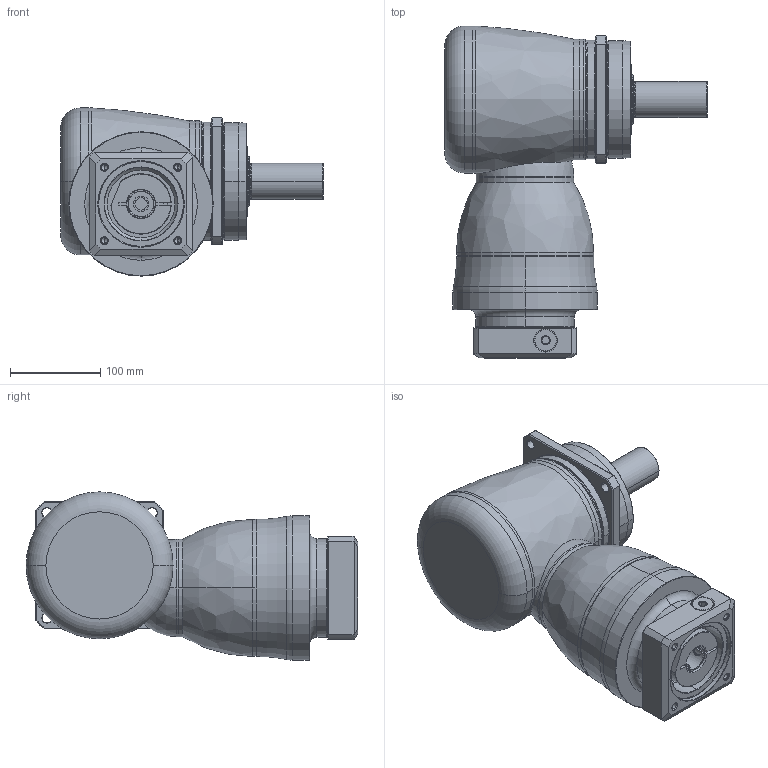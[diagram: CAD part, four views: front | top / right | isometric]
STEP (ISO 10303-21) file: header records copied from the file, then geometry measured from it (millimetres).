
FILE_DESCRIPTION((''),'2;1');
FILE_NAME('KF140_2ST_28-P0409600101_ASM','2016-06-27T',('d01943'),(''),'PRO/ENGINEER BY PARAMETRIC TECHNOLOGY CORPORATION, 2008410','PRO/ENGINEER BY PARAMETRIC TECHNOLOGY CORPORATION, 2008410','');
FILE_SCHEMA(('CONFIG_CONTROL_DESIGN'));
Length unit declared in the file: millimetre
Products named in the file (11): P1008500002; P1804500001; P0915500001; P1315500001; P1007500001; P1317500201; P0409600101; P0503600010; P0912402001; 21711418017; KF140_2ST_28-P0409600101_ASM
Assembly tree (10 placements, depth 2):
  KF140_2ST_28-P0409600101_ASM
    P1008500002
    P1804500001
    P0915500001
    P1315500001
    P1007500001
    P1317500201
    P0409600101
    P0503600010
    P0912402001
    21711418017
Bounding box: 291 x 368 x 186.5 mm (x, y, z)
Volume: 5044441.3 mm3; surface area: 528300.1 mm2
Topology: 11 solids, 11 shells, 442 faces, 978 edges, 577 vertices
Faces by surface type: cylinder 144, cone 116, plane 95, torus 64, bspline 21, sphere 2
Entity records: 17236 total; most frequent: CARTESIAN_POINT 7212, DIRECTION 2227, ORIENTED_EDGE 1920, EDGE_CURVE 960, AXIS2_PLACEMENT_3D 946, VERTEX_POINT 577, EDGE_LOOP 505, CIRCLE 504
